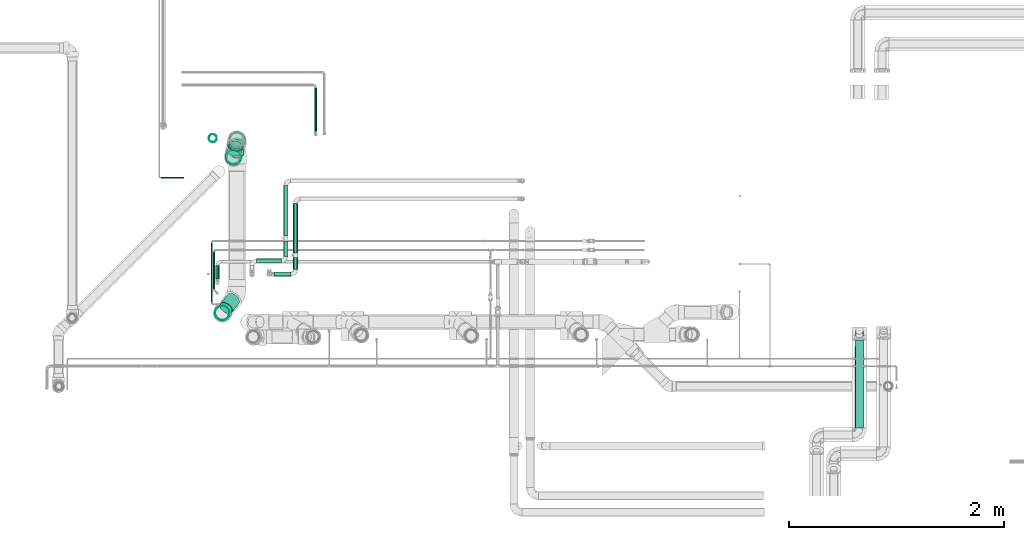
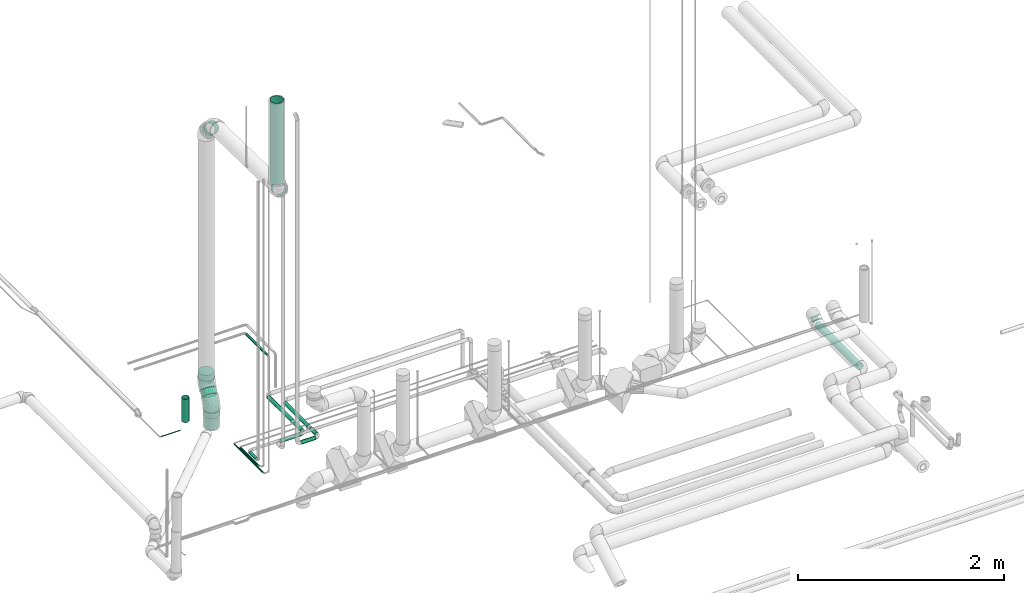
# One storey, part 61 of 156: 19 flow segments, 2 flow fittings.
"""IFC2X3 building model written with IfcOpenShell, lengths in millimetres."""

import ifcopenshell
import ifcopenshell.guid

model = None  # the IFC model being written
_history = None  # IfcOwnerHistory: only IFC2X3 demands one
_inside = {}  # id of a spatial element -> (the spatial element, [elements in it])
_under = {}  # id of a project, library or spatial element -> (it, [spatial elements below it])
_declared = {}  # id of a project -> (the project, [libraries it declares])
_typed = {}  # id of a type object -> (the type object, [elements of that type])
_made_of = {}  # id of a material, layer set ... -> (it, [elements and type objects made of it])


def new_model(schema):
    """Start an empty IFC model of exactly this schema.

    Asked for "IFC4X3", IfcOpenShell would pick the latest addendum, in which some entities
    have other attributes; the version numbers below select the first issue.
    IFC2X3 requires an IfcOwnerHistory on every rooted entity: one is made here for all.
    """
    global model, _history
    if schema == "IFC4X3":
        model = ifcopenshell.file(schema_version=(4, 3, 0, 0))
    else:
        model = ifcopenshell.file(schema=schema)
    _inside.clear()
    _under.clear()
    _declared.clear()
    _typed.clear()
    _made_of.clear()
    _history = None
    if model.schema == "IFC2X3":
        org = make("IfcOrganization", Name="unknown")
        user = make(
            "IfcPersonAndOrganization",
            ThePerson=make("IfcPerson", FamilyName="unknown"),
            TheOrganization=org,
        )
        app = make(
            "IfcApplication",
            ApplicationDeveloper=org,
            Version="unknown",
            ApplicationFullName="unknown",
            ApplicationIdentifier="unknown",
        )
        _history = make(
            "IfcOwnerHistory",
            OwningUser=user,
            OwningApplication=app,
            ChangeAction="ADDED",
            CreationDate=0,
        )
    return model


def make(cls, **values):
    """One entity of the class cls with the attributes given. An attribute that is None is left unset."""
    return model.create_entity(
        cls, **{name: value for name, value in values.items() if value is not None}
    )


def entity(cls, *values):
    """Any entity or typed value of the class cls, its attributes in the order of the schema. None: left unset."""
    e = model.create_entity(cls)
    for i, value in enumerate(values):
        if value is not None:
            e[i] = value
    return e


def rooted(cls, **values):
    """An entity with a GlobalId (a new one), such as an element, a storey or a relation."""
    return make(cls, GlobalId=ifcopenshell.guid.new(), OwnerHistory=_history, **values)


def si_unit(unit_type, name, prefix=None):
    """IfcSIUnit, for example si_unit("LENGTHUNIT", "METRE", prefix="MILLI")."""
    return make("IfcSIUnit", UnitType=unit_type, Prefix=prefix, Name=name)


def converted_unit(unit_type, name, factor, base, dimensions=None, offset=None):
    """IfcConversionBasedUnit, such as the inch: factor (a typed value) times the base unit."""
    return make(
        "IfcConversionBasedUnit"
        if offset is None
        else "IfcConversionBasedUnitWithOffset",
        ConversionOffset=offset,
        Dimensions=None
        if dimensions is None
        else entity("IfcDimensionalExponents", *dimensions),
        UnitType=unit_type,
        Name=name,
        ConversionFactor=make(
            "IfcMeasureWithUnit", ValueComponent=factor, UnitComponent=base
        ),
    )


def derived_unit(unit_type, elements):
    """IfcDerivedUnit: a product of units, each with its exponent."""
    return make(
        "IfcDerivedUnit",
        Elements=[
            make("IfcDerivedUnitElement", Unit=unit, Exponent=power)
            for unit, power in elements
        ],
        UnitType=unit_type,
    )


def assignment(units):
    """IfcUnitAssignment: the units of a project."""
    return None if units is None else make("IfcUnitAssignment", Units=units)


def point(xyz):
    """IfcCartesianPoint."""
    return None if xyz is None else make("IfcCartesianPoint", Coordinates=xyz)


def direction(xyz):
    """IfcDirection."""
    return None if xyz is None else make("IfcDirection", DirectionRatios=xyz)


def frame(location, z_axis=None, x_axis=None):
    """IfcAxis2Placement3D, a coordinate frame: its origin and axes. An axis left out is left unset."""
    return make(
        "IfcAxis2Placement3D",
        Location=point(location),
        Axis=direction(z_axis),
        RefDirection=direction(x_axis),
    )


def frame_2d(location, x_axis=None):
    """IfcAxis2Placement2D, a coordinate frame in the plane: its origin and x axis."""
    return make(
        "IfcAxis2Placement2D", Location=point(location), RefDirection=direction(x_axis)
    )


def origin_with_axes():
    """The frame at (0, 0, 0) with the z axis (0, 0, 1) and the x axis (1, 0, 0) written out."""
    return frame((0.0, 0.0, 0.0), z_axis=(0.0, 0.0, 1.0), x_axis=(1.0, 0.0, 0.0))


def origin_2d_with_axis():
    """The frame at (0, 0) in the plane with the x axis (1, 0) written out."""
    return frame_2d((0.0, 0.0), x_axis=(1.0, 0.0))


def place(relative_to, where):
    """IfcLocalPlacement: puts the frame where relative to a parent placement (None: the world)."""
    return make(
        "IfcLocalPlacement", PlacementRelTo=relative_to, RelativePlacement=where
    )


def context(
    kind, dimensions, precision=None, world=None, true_north=None, identifier=None
):
    """IfcGeometricRepresentationContext, for example the 3D "Model" context."""
    return make(
        "IfcGeometricRepresentationContext",
        ContextIdentifier=identifier,
        ContextType=kind,
        CoordinateSpaceDimension=dimensions,
        Precision=precision,
        WorldCoordinateSystem=world,
        TrueNorth=true_north,
    )


def subcontext(parent, identifier, kind, view, scale=None):
    """IfcGeometricRepresentationSubContext, for example "Body" below "Model"."""
    return make(
        "IfcGeometricRepresentationSubContext",
        ContextIdentifier=identifier,
        ContextType=kind,
        ParentContext=parent,
        TargetScale=scale,
        TargetView=view,
    )


def project(units=None, contexts=None):
    """IfcProject with its units and contexts."""
    return rooted(
        "IfcProject",
        Name="project",
        RepresentationContexts=contexts,
        UnitsInContext=assignment(units),
    )


def spatial(cls, under=None, at=None, **own):
    """A site, building, storey or space (cls), placed at a placement, below another one or the project."""
    s = rooted(cls, ObjectPlacement=at, **own)
    if under is not None:
        _under.setdefault(under.id(), (under, []))[1].append(s)
    return s


def profile(cls, at=None, kind="AREA", **sizes):
    """A parametric profile (cls). Its sizes go by their IFC names, for example OverallWidth=200.0."""
    return make(cls, ProfileType=kind, Position=at, **sizes)


def hollow_circle(**sizes):
    """IfcCircleHollowProfileDef."""
    return profile("IfcCircleHollowProfileDef", **sizes)


def extrude(swept, where, along, depth):
    """IfcExtrudedAreaSolid: the profile swept, set in the frame where, extruded along a direction by depth."""
    return make(
        "IfcExtrudedAreaSolid",
        SweptArea=swept,
        Position=where,
        ExtrudedDirection=direction(along),
        Depth=depth,
    )


def faces_of(points, faces, orient=None, outer=None):
    """IfcFace entities. A face is a list of loops; a loop is a list of indices into points, from 0.

    orient and outer hold one flag for each loop. By default every Orientation is true, the
    first loop of a face is its IfcFaceOuterBound and the others are IfcFaceBound.
    """
    made = []
    for i, loops in enumerate(faces):
        bounds = []
        for j, loop in enumerate(loops):
            is_outer = j == 0 if outer is None else outer[i][j]
            bounds.append(
                make(
                    "IfcFaceOuterBound" if is_outer else "IfcFaceBound",
                    Bound=make("IfcPolyLoop", Polygon=[points[k] for k in loop]),
                    Orientation=True if orient is None else orient[i][j],
                )
            )
        made.append(make("IfcFace", Bounds=bounds))
    return made


def open_shell(faces, orient=None, outer=None):
    """The faces of one IfcOpenShell. surface_model builds it on its shared points."""
    return ("IfcOpenShell", faces, orient, outer)


def surface_model(cls, points, shells):
    """IfcFaceBasedSurfaceModel or IfcShellBasedSurfaceModel (cls): surfaces that need not close."""
    shared = [point(p) for p in points]
    made = [make(c, CfsFaces=faces_of(shared, fs, o, b)) for c, fs, o, b in shells]
    if cls == "IfcFaceBasedSurfaceModel":
        return make(cls, FbsmFaces=made)
    return make(cls, SbsmBoundary=made)


def shape(context_of_items, identifier, shape_type, items):
    """IfcShapeRepresentation: the items that make up one representation, for example the "Body"."""
    return make(
        "IfcShapeRepresentation",
        ContextOfItems=context_of_items,
        RepresentationIdentifier=identifier,
        RepresentationType=shape_type,
        Items=items,
    )


def source(mapping_origin, context_of_items, identifier, shape_type, items):
    """IfcRepresentationMap: a shape defined once, which mapped items show again and again."""
    return make(
        "IfcRepresentationMap",
        MappingOrigin=mapping_origin,
        MappedRepresentation=shape(context_of_items, identifier, shape_type, items),
    )


def transform(
    local_origin,
    x_axis=None,
    y_axis=None,
    z_axis=None,
    scale=None,
    scale2=None,
    scale3=None,
    uniform=True,
):
    """IfcCartesianTransformationOperator3D, or its non-uniform kind. x_axis, y_axis, z_axis: its Axis1, 2, 3."""
    if uniform:
        return make(
            "IfcCartesianTransformationOperator3D",
            Axis1=direction(x_axis),
            Axis2=direction(y_axis),
            LocalOrigin=point(local_origin),
            Scale=scale,
            Axis3=direction(z_axis),
        )
    return make(
        "IfcCartesianTransformationOperator3DnonUniform",
        Axis1=direction(x_axis),
        Axis2=direction(y_axis),
        LocalOrigin=point(local_origin),
        Scale=scale,
        Axis3=direction(z_axis),
        Scale2=scale2,
        Scale3=scale3,
    )


def mapped(mapping_source, mapping_target):
    """IfcMappedItem: shows the shape of a source again, moved by a transform."""
    return make(
        "IfcMappedItem", MappingSource=mapping_source, MappingTarget=mapping_target
    )


def made_of(thing, what):
    """Note that an element or type object is made of a material, layer set ...; save() writes the relation."""
    if what is not None:
        _made_of.setdefault(what.id(), (what, []))[1].append(thing)
    return thing


def type_object(cls, material=None, **own):
    """A type object (cls), such as IfcWallType, which elements share."""
    return made_of(rooted(cls, **own), material)


def element(
    cls,
    number,
    at=None,
    inside=None,
    cuts=None,
    type_object=None,
    material=None,
    context=None,
    identifier="Body",
    shape_type=None,
    held_by="IfcProductDefinitionShape",
    body=None,
    shapes=None,
    **own,
):
    """One element of the class cls, such as IfcWall. Its Tag is "e" and its number.

    at: its placement. inside: the storey or other place that contains it. cuts: it is an
    opening in that element (IfcRelVoidsElement). A single representation is given by context,
    identifier, shape_type and body (its items); several are given by shapes. held_by: the class
    of the entity that holds the representations. save() writes the other relations.
    """
    e = rooted(cls, Tag="e%d" % number, ObjectPlacement=at, **own)
    if body is not None:
        shapes = [shape(context, identifier, shape_type, body)]
    if shapes is not None:
        e.Representation = make(held_by, Representations=shapes)
    if inside is not None:
        _inside.setdefault(inside.id(), (inside, []))[1].append(e)
    if cuts is not None:
        rooted(
            "IfcRelVoidsElement", RelatingBuildingElement=cuts, RelatedOpeningElement=e
        )
    if type_object is not None:
        _typed.setdefault(type_object.id(), (type_object, []))[1].append(e)
    return made_of(e, material)


def aggregate(whole, parts):
    """IfcRelAggregates: a whole, such as a stair, and the parts it consists of."""
    return rooted("IfcRelAggregates", RelatingObject=whole, RelatedObjects=parts)


def save(model, path):
    """Write the relations noted so far, then the file.

    IfcRelAggregates (storeys below a building ...), IfcRelContainedInSpatialStructure (elements
    in a storey), IfcRelDefinesByType, IfcRelAssociatesMaterial and IfcRelDeclares: one each for
    every whole, place, type object, material and project.
    """
    for whole, parts in _under.values():
        aggregate(whole, parts)
    for where, things in _inside.values():
        rooted(
            "IfcRelContainedInSpatialStructure",
            RelatedElements=things,
            RelatingStructure=where,
        )
    for kind, things in _typed.values():
        rooted("IfcRelDefinesByType", RelatedObjects=things, RelatingType=kind)
    for what, things in _made_of.values():
        rooted("IfcRelAssociatesMaterial", RelatedObjects=things, RelatingMaterial=what)
    for by, libraries in _declared.values():
        rooted("IfcRelDeclares", RelatingContext=by, RelatedDefinitions=libraries)
    model.write(path)


model = new_model("IFC2X3")

# Units and contexts
model_context = context("Model", 3, precision=0.01, world=frame((0.0, 4.29681676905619e-09, 0.0)), true_north=direction((4.01073788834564e-13, 1.0)))
plan_context = context("Plan", 3, precision=0.01, world=frame((0.0, 4.29681676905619e-09, 0.0)), true_north=direction((4.01073788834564e-13, 1.0)))
body_context = subcontext(model_context, "Body", "Model", "MODEL_VIEW")
ifc_project = project(units=[converted_unit("PLANEANGLEUNIT", "DEGREE", entity("IfcPositiveLengthMeasure", 0.0174532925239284), si_unit("PLANEANGLEUNIT", "RADIAN"), dimensions=[0, 0, 0, 0, 0, 0, 0]), si_unit("AREAUNIT", "SQUARE_METRE"), si_unit("LENGTHUNIT", "METRE", prefix="MILLI"), si_unit("MASSUNIT", "GRAM", prefix="KILO"), si_unit("POWERUNIT", "WATT"), si_unit("PRESSUREUNIT", "PASCAL", prefix="KILO"), si_unit("FORCEUNIT", "NEWTON", prefix="KILO"), si_unit("ELECTRICVOLTAGEUNIT", "VOLT"), si_unit("ELECTRICCURRENTUNIT", "AMPERE"), si_unit("THERMODYNAMICTEMPERATUREUNIT", "DEGREE_CELSIUS"), si_unit("TIMEUNIT", "SECOND"), si_unit("VOLUMEUNIT", "CUBIC_METRE"), derived_unit("LINEARVELOCITYUNIT", [(si_unit("LENGTHUNIT", "METRE"), 1), (si_unit("TIMEUNIT", "SECOND"), -1)]), derived_unit("VOLUMETRICFLOWRATEUNIT", [(si_unit("VOLUMEUNIT", "CUBIC_METRE"), 1), (si_unit("TIMEUNIT", "SECOND"), -1)]), derived_unit("THERMALTRANSMITTANCEUNIT", [(si_unit("POWERUNIT", "WATT"), 1), (si_unit("THERMODYNAMICTEMPERATUREUNIT", "KELVIN"), -1), (si_unit("AREAUNIT", "SQUARE_METRE"), -1)]), derived_unit("SOUNDPRESSUREUNIT", [(si_unit("PRESSUREUNIT", "PASCAL"), 1)])], contexts=[model_context, plan_context])

# Site, building, storey
site_placement = place(None, frame((0.0, -4.29681676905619e-09, 0.0), z_axis=(0.0, 0.0, 1.0), x_axis=(1.0, 0.0, 0.0)))
site = spatial("IfcSite", under=ifc_project, at=site_placement, CompositionType="ELEMENT")
building_placement = place(site_placement, frame((0.0, 4.29681676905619e-09, 0.0), z_axis=(0.0, 0.0, 1.0), x_axis=(1.0, 0.0, 0.0)))
building = spatial("IfcBuilding", under=site, at=building_placement, Name="mc-building", CompositionType="ELEMENT")
storey_placement = place(building_placement, frame((0.0, 0.0, 205200.0), z_axis=(0.0, 0.0, 1.0), x_axis=(1.0, 0.0, 0.0)))
storey = spatial("IfcBuildingStorey", under=building, at=storey_placement, Name="Nivå D + 1,2 m", CompositionType="ELEMENT", Elevation=205200.0)

# Flow fittings
pipe_fitting_type = type_object("IfcPipeFittingType", Name="magi_sewer_bend_001", PredefinedType="BEND")
shared_shape_1 = source(origin_with_axes(), body_context, "Body", "SurfaceModel", [
    surface_model("IfcShellBasedSurfaceModel", [(-137.13779, -39.625, -68.63251), (-137.13779, 20.51141, -76.54962), (-137.13779, -20.51141, -76.54962), (-137.13779, -56.03821, -56.03821), (-137.13779, -68.63251, -39.625), (-137.13779, -76.54962, -20.51141), (-137.13779, -79.25, 0.0), (-137.13779, 68.63251, -39.625), (-137.13779, 39.625, -68.63251), (-137.13779, 0.0, -79.25), (-137.13779, 56.03821, -56.03821), (-137.13779, 76.54962, -20.51141), (-137.13779, 76.54962, 20.51141), (-137.13779, -76.54962, 20.51141), (-137.13779, -68.63251, 39.625), (-137.13779, -56.03821, 56.03821), (-137.13779, -39.625, 68.63251), (-137.13779, -20.51141, 76.54962), (-137.13779, 0.0, 79.25), (-137.13779, 20.51141, 76.54962), (-137.13779, 56.03821, 56.03821), (-137.13779, 68.63251, 39.625), (-137.13779, 79.25, 0.0), (-137.13779, 39.625, 68.63251), (-69.63779, 0.0, 79.25), (-69.63779, -20.51141, 76.54962), (-69.63779, -39.625, 68.63251), (-69.63779, 20.51141, 76.54962), (-69.63779, -56.03821, 56.03821), (-69.63779, -68.63251, 39.625), (-69.63779, -76.54962, 20.51141), (-69.63779, 56.03821, 56.03821), (-69.63779, 39.625, 68.63251), (-69.63779, 76.54962, 20.51141), (-69.63779, 68.63251, 39.625), (-69.63779, 76.54962, -20.51141), (-69.63779, 79.25, 0.0), (-69.63779, -79.25, 0.0), (-69.63779, -76.54962, -20.51141), (-69.63779, -68.63251, -39.625), (-69.63779, -56.03821, -56.03821), (-69.63779, -39.625, -68.63251), (-69.63779, -20.51141, -76.54962), (-69.63779, 0.0, -79.25), (-69.63779, 68.63251, -39.625), (-69.63779, 39.625, -68.63251), (-69.63779, 56.03821, -56.03821), (-69.63779, 20.51141, -76.54962), (34.92984, 149.32214, 39.625), (28.84304, 154.38491, -20.51141), (28.84304, 154.38491, 20.51141), (44.61253, 141.26846, 56.03821), (57.23127, 130.77269, 68.63251), (71.92609, 118.55011, 76.54962), (87.69558, 105.43366, 79.25), (103.46508, 92.31722, -76.54962), (71.92609, 118.55011, -76.54962), (44.61253, 141.26846, -56.03821), (34.92984, 149.32214, -39.625), (26.76695, 156.11171, 0.0), (57.23127, 130.77269, -68.63251), (103.46508, 92.31722, 76.54962), (118.1599, 80.09465, 68.63251), (130.77864, 69.59888, -56.03821), (140.46133, 61.54519, 39.625), (130.77864, 69.59888, 56.03821), (146.54812, 56.48244, 20.51141), (148.62421, 54.75562, 0.0), (146.54812, 56.48244, -20.51141), (118.1599, 80.09465, -68.63251), (87.69558, 105.43366, -79.25), (140.46133, 61.54519, -39.625), (74.99564, 28.19959, 68.63251), (105.45995, 2.86057, 0.0), (103.38386, 4.58738, 20.51141), (87.61437, 17.70383, 56.03821), (97.29706, 9.65014, 39.625), (103.38386, 4.58738, -20.51141), (60.30081, 40.42217, -76.54962), (60.30081, 40.42217, 76.54962), (87.61437, 17.70383, -56.03821), (97.29706, 9.65014, -39.625), (74.99564, 28.19959, -68.63251), (28.76183, 66.65506, -76.54962), (44.53132, 53.53862, -79.25), (14.067, 78.87764, 68.63251), (44.53132, 53.53862, 79.25), (28.76183, 66.65506, 76.54962), (-8.23442, 97.42709, 39.625), (1.44827, 89.37341, 56.03821), (-16.39731, 104.21666, 0.0), (-14.32122, 102.48985, 20.51141), (1.44827, 89.37341, -56.03821), (14.067, 78.87764, -68.63251), (-8.23442, 97.42709, -39.625), (-14.32122, 102.48985, -20.51141), (-69.63779, 0.0, -74.25), (-69.63779, -52.50268, -52.50268), (-69.63779, 19.21731, -71.71999), (-69.63779, 37.125, -64.30238), (-69.63779, 52.50268, -52.50268), (-69.63779, 71.71999, -19.21731), (-69.63779, 64.30238, -37.125), (-69.63779, -64.30238, -37.125), (-69.63779, -37.125, -64.30238), (-69.63779, -19.21731, -71.71999), (-69.63779, -71.71999, -19.21731), (-69.63779, -74.25, 0.0), (-69.63779, -71.71999, 19.21731), (-69.63779, 71.71999, 19.21731), (-69.63779, 19.21731, 71.71999), (-69.63779, 64.30238, 37.125), (-69.63779, 52.50268, 52.50268), (-69.63779, 37.125, 64.30238), (-69.63779, 0.0, 74.25), (-69.63779, -64.30238, 37.125), (-69.63779, -52.50268, 52.50268), (-69.63779, -37.125, 64.30238), (-69.63779, -19.21731, 71.71999), (-69.63779, 74.25, 0.0), (4.16644, 87.11253, -52.50268), (44.53132, 53.53862, -74.25), (29.75675, 65.82752, -71.71999), (15.98904, 77.27896, -64.30238), (-4.90536, 94.6581, -37.125), (-10.60813, 99.40145, -19.21731), (93.96799, 12.41913, -37.125), (59.30589, 41.24971, -71.71999), (84.8962, 19.9647, -52.50268), (73.0736, 29.79827, -64.30238), (99.67077, 7.67579, -19.21731), (99.67077, 7.67579, 19.21731), (101.61587, 6.05793, 0.0), (-10.60813, 99.40145, 19.21731), (4.16644, 87.11253, 52.50268), (-4.90536, 94.6581, 37.125), (15.98904, 77.27896, 64.30238), (29.75675, 65.82752, 71.71999), (73.0736, 29.79827, 64.30238), (44.53132, 53.53862, 74.25), (84.8962, 19.9647, 52.50268), (93.96799, 12.41913, 37.125), (59.30589, 41.24971, 71.71999), (-12.55324, 101.01931, 0.0), (-19.34968, -54.80761, 42.42674), (-32.45645, -66.34906, 26.01714), (-40.62907, -71.30785, 12.36148), (-21.19091, -68.91771, 0.0), (-32.17325, 11.93643, 73.92957), (30.32582, 22.92971, 73.2737), (-32.81312, -43.66439, 57.34899), (-24.81067, -25.58492, 67.34713), (14.51727, -30.95753, 55.15442), (-30.68301, 65.43038, 47.87989), (-0.35541, 0.75791, 72.7843), (-37.02119, -8.65209, 73.2737), (-38.90374, 47.71072, 60.4397), (6.9187, 53.71074, 69.30012), (18.28322, -51.34744, 25.22851), (24.93649, -53.17615, 0.0), (46.60059, -39.91524, 14.16777), (-16.96676, 36.18099, 70.11088), (-45.71795, 29.02724, 69.30012), (20.44128, -41.40202, 41.33078), (6.23745, -13.30113, 67.82714), (35.53578, 2.71403, 67.34713), (-30.59311, 77.6122, 30.77785), (-37.42595, 79.80945, 15.41738), (54.55289, -2.69485, 57.34899), (-48.24019, 77.40004, 0.0), (-10.1193, -64.7257, 14.21435), (45.51219, -35.02185, 29.45901), (71.76513, -17.47525, 26.01714), (11.39693, 32.36829, 73.92957), (54.5105, -20.17153, 42.42674), (-9.63875, 62.10604, 60.30621), (80.80368, -14.36301, 12.36148), (66.53597, -27.77895, 0.0), (-28.65817, 86.58285, 0.0), (64.52356, -11.64715, -43.16051), (45.9662, -10.09343, -56.85499), (23.73384, 17.19545, -73.16993), (-21.39216, 71.17482, -47.14974), (-47.01338, 60.5579, -46.7379), (-35.19605, 75.05426, -31.19366), (-35.80138, 30.67362, -69.58204), (-2.45537, 5.23599, -73.60916), (7.44871, -16.22604, -66.32836), (-28.39722, -7.25096, -73.16993), (-37.41911, 79.79486, -15.49306), (42.46823, 8.71476, -67.6123), (-0.68842, 47.13954, -69.58204), (20.54587, -51.85409, -21.01023), (-20.54756, -64.24289, -25.2267), (15.47138, -44.38665, -40.35058), (-41.42529, 10.44371, -73.86099), (-8.73738, 18.63214, -74.07726), (62.53049, -25.28416, -25.2267), (-32.33724, -57.05907, -43.16224), (-21.76988, -41.82073, -56.86107), (14.84593, -31.8249, -54.30658), (38.36901, -27.36603, -46.50282), (-33.85723, -27.0774, -67.6123), (-49.64131, 45.7958, -59.90599), (-24.45929, 52.15852, -61.16675), (-3.46437, 67.45007, -59.90599), (18.46096, 38.52685, -73.86099)], [open_shell([[[0, 1, 2]], [[3, 1, 0]], [[4, 5, 6]], [[4, 6, 3]], [[6, 1, 3]], [[1, 7, 8]], [[1, 9, 2]], [[8, 7, 10]], [[7, 1, 11]], [[6, 11, 1]], [[6, 12, 11]], [[13, 14, 15]], [[13, 15, 16]], [[16, 17, 18]], [[13, 16, 12]], [[19, 16, 18]], [[12, 20, 21]], [[22, 11, 12]], [[20, 19, 23]], [[19, 20, 12]], [[16, 19, 12]], [[12, 6, 13]], [[24, 25, 26]], [[27, 24, 26]], [[28, 29, 30]], [[28, 30, 26]], [[27, 26, 30]], [[27, 31, 32]], [[31, 27, 33]], [[31, 33, 34]], [[27, 30, 33]], [[33, 35, 36]], [[33, 30, 35]], [[37, 38, 39]], [[37, 39, 40]], [[41, 42, 37]], [[41, 37, 40]], [[37, 42, 43]], [[44, 45, 46]], [[47, 44, 35]], [[44, 47, 45]], [[47, 35, 43]], [[35, 37, 43]], [[37, 35, 30]], [[11, 36, 35]], [[8, 45, 47]], [[45, 10, 46]], [[1, 47, 43]], [[35, 7, 11]], [[11, 22, 36]], [[44, 10, 7]], [[44, 46, 10]], [[10, 45, 8]], [[47, 1, 8]], [[44, 7, 35]], [[43, 9, 1]], [[2, 42, 41]], [[40, 0, 41]], [[4, 39, 38]], [[40, 39, 3]], [[5, 38, 37]], [[42, 2, 9]], [[41, 0, 2]], [[40, 3, 0]], [[39, 4, 3]], [[5, 4, 38]], [[37, 6, 5]], [[42, 9, 43]], [[30, 13, 37]], [[29, 14, 30]], [[29, 28, 15]], [[28, 26, 16]], [[30, 14, 13]], [[13, 6, 37]], [[25, 17, 16]], [[17, 25, 24]], [[15, 28, 16]], [[15, 14, 29]], [[26, 25, 16]], [[24, 18, 17]], [[19, 27, 32]], [[31, 23, 32]], [[21, 34, 33]], [[31, 34, 20]], [[12, 33, 36]], [[27, 19, 18]], [[32, 23, 19]], [[31, 20, 23]], [[34, 21, 20]], [[12, 21, 33]], [[36, 22, 12]], [[27, 18, 24]], [[48, 49, 50]], [[51, 49, 48]], [[52, 53, 54]], [[49, 51, 52]], [[52, 55, 56]], [[49, 57, 58]], [[49, 59, 50]], [[57, 56, 60]], [[56, 57, 49]], [[52, 56, 49]], [[52, 54, 61]], [[62, 63, 61]], [[64, 62, 65]], [[64, 66, 67]], [[68, 62, 64]], [[68, 64, 67]], [[55, 63, 69]], [[70, 56, 55]], [[63, 68, 71]], [[63, 55, 61]], [[68, 63, 62]], [[55, 52, 61]], [[72, 73, 74]], [[75, 74, 76]], [[73, 72, 77]], [[72, 74, 75]], [[78, 72, 79]], [[77, 80, 81]], [[77, 72, 80]], [[80, 78, 82]], [[72, 78, 80]], [[78, 83, 84]], [[78, 79, 85]], [[86, 87, 85]], [[78, 85, 83]], [[83, 85, 88]], [[88, 85, 89]], [[90, 88, 91]], [[83, 92, 93]], [[92, 83, 94]], [[83, 95, 94]], [[83, 88, 95]], [[88, 90, 95]], [[85, 79, 86]], [[56, 84, 83]], [[58, 94, 95]], [[94, 57, 92]], [[49, 95, 90]], [[83, 60, 56]], [[56, 70, 84]], [[93, 57, 60]], [[93, 92, 57]], [[57, 94, 58]], [[95, 49, 58]], [[93, 60, 83]], [[90, 59, 49]], [[50, 91, 88]], [[89, 48, 88]], [[52, 85, 87]], [[89, 85, 51]], [[53, 87, 86]], [[91, 50, 59]], [[88, 48, 50]], [[89, 51, 48]], [[85, 52, 51]], [[53, 52, 87]], [[86, 54, 53]], [[91, 59, 90]], [[79, 61, 86]], [[72, 62, 79]], [[72, 75, 65]], [[75, 76, 64]], [[79, 62, 61]], [[61, 54, 86]], [[74, 66, 64]], [[66, 74, 73]], [[65, 75, 64]], [[65, 62, 72]], [[76, 74, 64]], [[73, 67, 66]], [[68, 77, 81]], [[80, 71, 81]], [[69, 82, 78]], [[80, 82, 63]], [[55, 78, 84]], [[77, 68, 67]], [[81, 71, 68]], [[80, 63, 71]], [[82, 69, 63]], [[55, 69, 78]], [[84, 70, 55]], [[77, 67, 73]], [[96, 97, 98]], [[99, 98, 100]], [[101, 102, 100]], [[100, 98, 97]], [[101, 100, 103]], [[104, 97, 105]], [[97, 96, 105]], [[97, 103, 100]], [[101, 103, 106]], [[107, 108, 106]], [[109, 101, 106]], [[110, 109, 106]], [[111, 109, 112]], [[109, 110, 113]], [[112, 109, 113]], [[106, 114, 110]], [[115, 116, 108]], [[117, 108, 116]], [[118, 114, 117]], [[106, 108, 117]], [[106, 117, 114]], [[119, 101, 109]], [[120, 121, 122]], [[120, 122, 123]], [[120, 124, 125]], [[120, 125, 121]], [[121, 125, 126]], [[127, 128, 129]], [[128, 127, 126]], [[130, 131, 132]], [[126, 127, 121]], [[130, 126, 131]], [[126, 125, 133]], [[131, 126, 133]], [[134, 133, 135]], [[134, 136, 137]], [[133, 134, 138]], [[137, 139, 134]], [[131, 140, 141]], [[140, 131, 138]], [[138, 139, 142]], [[138, 131, 133]], [[134, 139, 138]], [[133, 125, 143]], [[144, 115, 145]], [[146, 107, 147]], [[110, 114, 148]], [[142, 139, 149]], [[117, 150, 151]], [[152, 151, 150]], [[134, 135, 153]], [[154, 155, 151]], [[155, 114, 118]], [[112, 113, 156]], [[118, 117, 151]], [[137, 136, 157]], [[144, 145, 158]], [[156, 153, 112]], [[159, 160, 158]], [[153, 111, 112]], [[161, 162, 148]], [[163, 144, 158]], [[164, 152, 165]], [[166, 167, 109]], [[140, 138, 168]], [[169, 119, 109]], [[111, 153, 166]], [[151, 164, 154]], [[110, 162, 113]], [[117, 116, 150]], [[170, 145, 146]], [[115, 108, 145]], [[165, 142, 149]], [[158, 171, 163]], [[133, 167, 166]], [[165, 138, 142]], [[141, 172, 131]], [[137, 157, 173]], [[170, 159, 158]], [[174, 172, 141]], [[161, 157, 175]], [[165, 168, 138]], [[108, 146, 145]], [[132, 131, 176]], [[160, 159, 177]], [[162, 156, 113]], [[173, 148, 154]], [[169, 167, 178]], [[116, 115, 144]], [[143, 178, 133]], [[155, 148, 114]], [[166, 153, 135]], [[111, 166, 109]], [[134, 175, 136]], [[149, 173, 154]], [[133, 166, 135]], [[167, 133, 178]], [[153, 156, 175]], [[137, 173, 139]], [[148, 173, 161]], [[109, 167, 169]], [[174, 141, 140]], [[160, 171, 158]], [[168, 152, 174]], [[176, 131, 172]], [[116, 144, 150]], [[152, 150, 144]], [[152, 168, 165]], [[174, 140, 168]], [[151, 155, 118]], [[148, 155, 154]], [[173, 149, 139]], [[165, 149, 154]], [[153, 175, 134]], [[161, 175, 156]], [[148, 162, 110]], [[156, 162, 161]], [[175, 157, 136]], [[173, 157, 161]], [[152, 164, 151]], [[165, 154, 164]], [[107, 146, 108]], [[170, 146, 147]], [[159, 170, 147]], [[158, 145, 170]], [[176, 160, 177]], [[171, 160, 172]], [[172, 174, 171]], [[163, 174, 152]], [[174, 163, 171]], [[144, 163, 152]], [[160, 176, 172]], [[132, 176, 177]], [[128, 179, 180]], [[121, 127, 181]], [[182, 183, 184]], [[99, 185, 98]], [[119, 169, 101]], [[186, 187, 188]], [[189, 101, 169]], [[127, 190, 181]], [[100, 102, 183]], [[123, 122, 191]], [[192, 193, 194]], [[195, 96, 98]], [[103, 193, 106]], [[181, 186, 196]], [[147, 107, 106]], [[126, 197, 179]], [[106, 193, 147]], [[193, 103, 198]], [[97, 104, 199]], [[200, 201, 194]], [[97, 198, 103]], [[105, 202, 104]], [[105, 96, 188]], [[128, 126, 179]], [[125, 189, 178]], [[101, 189, 184]], [[189, 169, 178]], [[194, 198, 199]], [[178, 143, 125]], [[124, 120, 182]], [[102, 101, 184]], [[203, 185, 99]], [[198, 97, 199]], [[184, 124, 182]], [[191, 204, 205]], [[188, 202, 105]], [[206, 122, 121]], [[120, 123, 205]], [[96, 195, 188]], [[203, 99, 100]], [[159, 197, 177]], [[206, 181, 196]], [[181, 190, 187]], [[198, 194, 193]], [[200, 187, 180]], [[192, 197, 159]], [[193, 192, 147]], [[180, 129, 128]], [[130, 177, 197]], [[127, 129, 190]], [[132, 177, 130]], [[206, 191, 122]], [[196, 195, 185]], [[130, 197, 126]], [[125, 124, 184]], [[199, 200, 194]], [[204, 191, 185]], [[189, 125, 184]], [[196, 185, 191]], [[202, 187, 199]], [[201, 197, 194]], [[205, 182, 120]], [[204, 203, 183]], [[129, 180, 190]], [[187, 190, 180]], [[187, 202, 188]], [[199, 104, 202]], [[185, 195, 98]], [[188, 195, 196]], [[181, 206, 121]], [[191, 206, 196]], [[184, 183, 102]], [[204, 183, 182]], [[197, 192, 194]], [[147, 192, 159]], [[183, 203, 100]], [[185, 203, 204]], [[191, 205, 123]], [[182, 205, 204]], [[187, 200, 199]], [[201, 180, 179]], [[180, 201, 200]], [[197, 201, 179]], [[187, 186, 181]], [[188, 196, 186]]])]),
])
for number, where, z_axis, x_axis, name in (
    (1, (324277.16577, 464258.45864, 4246.97752000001), (-0.980682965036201, 0.195603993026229, 0.0), (0.0, 0.0, 1.0), "magi_sewer_bend_001"),
    (2, (324308.57539, 464415.93402, 4380.53938999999), (0.980682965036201, -0.195603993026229, -1.38777878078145e-17), (0.150383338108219, 0.753964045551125, 0.639470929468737), "magi_sewer_bend_001"),
):
    element("IfcFlowFitting", number, at=place(storey_placement, frame(where, z_axis=z_axis, x_axis=x_axis)), inside=storey, type_object=pipe_fitting_type, Name=name, context=body_context, shape_type="MappedRepresentation", body=[
        mapped(shared_shape_1, transform((0.0, 0.0, 0.0), scale=1.0)),
    ])

# Flow segments
pipe_segment_type_1 = type_object("IfcPipeSegmentType", Name="Stålrør normaltykke", PredefinedType="RIGIDSEGMENT")
shared_shape_2 = source(origin_with_axes(), body_context, "Body", "SweptSolid", [
    extrude(hollow_circle(Radius=21.2, WallThickness=2.0, at=origin_2d_with_axis()), frame((0.0, 0.0, 0.0), z_axis=(1.0, 0.0, 0.0), x_axis=(0.0, 1.0, 0.0)), (0.0, 0.0, 1.0), 112.2),
])
flow_segment_1_placement = place(storey_placement, frame((324853.30442, 463323.62349, 4303.5), z_axis=(0.0, 0.0, 1.0), x_axis=(0.0, -1.0, 0.0)))
element("IfcFlowSegment", 3, at=flow_segment_1_placement, inside=storey, type_object=pipe_segment_type_1, Name="Stålrør normaltykke", context=body_context, shape_type="MappedRepresentation", body=[
    mapped(shared_shape_2, transform((0.0, 0.0, 0.0), scale=1.0)),
])
shared_shape_3 = source(origin_with_axes(), body_context, "Body", "SweptSolid", [
    extrude(hollow_circle(Radius=21.2, WallThickness=2.0, at=origin_2d_with_axis()), frame((0.0, 0.0, 0.0), z_axis=(1.0, 0.0, 0.0), x_axis=(0.0, 1.0, 0.0)), (0.0, 0.0, 1.0), 159.6),
])
flow_segment_2_placement = place(storey_placement, frame((324810.90442, 463169.03228, 4303.5), z_axis=(0.0, 0.0, 1.0), x_axis=(-1.0, 0.0, 0.0)))
element("IfcFlowSegment", 4, at=flow_segment_2_placement, inside=storey, type_object=pipe_segment_type_1, Name="Stålrør normaltykke", context=body_context, shape_type="MappedRepresentation", body=[
    mapped(shared_shape_3, transform((0.0, 0.0, 0.0), scale=1.0)),
])
shared_shape_4 = source(origin_with_axes(), body_context, "Body", "SweptSolid", [
    extrude(hollow_circle(Radius=21.2, WallThickness=2.0, at=origin_2d_with_axis()), frame((0.0, 0.0, 0.0), z_axis=(1.0, 0.0, 0.0), x_axis=(0.0, 1.0, 0.0)), (0.0, 0.0, 1.0), 144.5),
])
flow_segment_3_placement = place(storey_placement, frame((324763.30442, 463479.3125, 4303.5), z_axis=(0.0, 0.0, 1.0), x_axis=(0.0, -1.0, 0.0)))
element("IfcFlowSegment", 5, at=flow_segment_3_placement, inside=storey, type_object=pipe_segment_type_1, Name="Stålrør normaltykke", context=body_context, shape_type="MappedRepresentation", body=[
    mapped(shared_shape_4, transform((0.0, 0.0, 0.0), scale=1.0)),
])
shared_shape_5 = source(origin_with_axes(), body_context, "Body", "SweptSolid", [
    extrude(hollow_circle(Radius=21.2, WallThickness=2.0, at=origin_2d_with_axis()), frame((0.0, 0.0, 0.0), z_axis=(1.0, 0.0, 0.0), x_axis=(0.0, 1.0, 0.0)), (0.0, 0.0, 1.0), 229.6),
])
flow_segment_4_placement = place(storey_placement, frame((324720.90442, 463292.4125, 4303.5), z_axis=(0.0, 0.0, 1.0), x_axis=(-1.0, 0.0, 0.0)))
element("IfcFlowSegment", 6, at=flow_segment_4_placement, inside=storey, type_object=pipe_segment_type_1, Name="Stålrør normaltykke", context=body_context, shape_type="MappedRepresentation", body=[
    mapped(shared_shape_5, transform((0.0, 0.0, 0.0), scale=1.0)),
])
shared_shape_6 = source(origin_with_axes(), body_context, "Body", "SweptSolid", [
    extrude(hollow_circle(Radius=21.2, WallThickness=2.0, at=origin_2d_with_axis()), frame((0.0, 0.0, 0.0), z_axis=(1.0, 0.0, 0.0), x_axis=(0.0, 1.0, 0.0)), (0.0, 0.0, 1.0), 461.0),
])
flow_segment_5_placement = place(storey_placement, frame((324853.30442, 463827.38191, 4303.5), z_axis=(0.0, 0.0, 1.0), x_axis=(0.0, -1.0, 0.0)))
element("IfcFlowSegment", 7, at=flow_segment_5_placement, inside=storey, type_object=pipe_segment_type_1, Name="Stålrør normaltykke", context=body_context, shape_type="MappedRepresentation", body=[
    mapped(shared_shape_6, transform((0.0, 0.0, 0.0), scale=1.0)),
])
shared_shape_7 = source(origin_with_axes(), body_context, "Body", "SweptSolid", [
    extrude(hollow_circle(Radius=21.2, WallThickness=2.0, at=origin_2d_with_axis()), frame((0.0, 0.0, 0.0), z_axis=(1.0, 0.0, 0.0), x_axis=(0.0, 1.0, 0.0)), (0.0, 0.0, 1.0), 471.6),
])
flow_segment_6_placement = place(storey_placement, frame((324763.30442, 463993.7423, 4303.5), z_axis=(0.0, 0.0, 1.0), x_axis=(0.0, -1.0, 0.0)))
element("IfcFlowSegment", 8, at=flow_segment_6_placement, inside=storey, type_object=pipe_segment_type_1, Name="Stålrør normaltykke", context=body_context, shape_type="MappedRepresentation", body=[
    mapped(shared_shape_7, transform((0.0, 0.0, 0.0), scale=1.0)),
])
pipe_segment_type_2 = type_object("IfcPipeSegmentType", Name="Kobberrør", PredefinedType="RIGIDSEGMENT")
shared_shape_8 = source(origin_with_axes(), body_context, "Body", "SweptSolid", [
    extrude(hollow_circle(Radius=17.5, WallThickness=2.0, at=origin_2d_with_axis()), frame((0.0, 0.0, 0.0), z_axis=(1.0, 0.0, 0.0), x_axis=(0.0, 1.0, 0.0)), (0.0, 0.0, 1.0), 124.5),
])
flow_segment_7_placement = place(storey_placement, frame((324128.525, 463125.0, 4318.0), z_axis=(0.0, 0.0, 1.0), x_axis=(0.0, 1.0, 0.0)))
element("IfcFlowSegment", 9, at=flow_segment_7_placement, inside=storey, type_object=pipe_segment_type_2, Name="Kobberrør", context=body_context, shape_type="MappedRepresentation", body=[
    mapped(shared_shape_8, transform((0.0, 0.0, 0.0), scale=1.0)),
])
shared_shape_9 = source(origin_with_axes(), body_context, "Body", "SweptSolid", [
    extrude(hollow_circle(Radius=9.0, WallThickness=2.0, at=origin_2d_with_axis()), frame((0.0, 0.0, 0.0), z_axis=(1.0, 0.0, 0.0), x_axis=(0.0, 1.0, 0.0)), (0.0, 0.0, 1.0), 346.2),
])
flow_segment_8_placement = place(storey_placement, frame((324096.70519, 463029.27565, 4309.0), z_axis=(0.0, 0.0, 1.0), x_axis=(0.0, 1.0, 0.0)))
element("IfcFlowSegment", 10, at=flow_segment_8_placement, inside=storey, type_object=pipe_segment_type_2, Name="Kobberrør", context=body_context, shape_type="MappedRepresentation", body=[
    mapped(shared_shape_9, transform((0.0, 0.0, 0.0), scale=1.0)),
])
shared_shape_10 = source(origin_with_axes(), body_context, "Body", "SweptSolid", [
    extrude(hollow_circle(Radius=7.5, WallThickness=2.0, at=origin_2d_with_axis()), frame((0.0, 0.0, 0.0), z_axis=(1.0, 0.0, 0.0), x_axis=(0.0, 1.0, 0.0)), (0.0, 0.0, 1.0), 557.7),
])
flow_segment_9_placement = place(storey_placement, frame((324075.349, 462905.0, 4308.0), z_axis=(0.0, 0.0, 1.0), x_axis=(0.0, 1.0, 0.0)))
element("IfcFlowSegment", 11, at=flow_segment_9_placement, inside=storey, type_object=pipe_segment_type_2, Name="Kobberrør", context=body_context, shape_type="MappedRepresentation", body=[
    mapped(shared_shape_10, transform((0.0, 0.0, 0.0), scale=1.0)),
])
pipe_segment_type_3 = type_object("IfcPipeSegmentType", Name="MA", PredefinedType="RIGIDSEGMENT")
shared_shape_11 = source(origin_with_axes(), body_context, "Body", "SweptSolid", [
    extrude(hollow_circle(Radius=67.5, WallThickness=2.0, at=origin_2d_with_axis()), frame((0.0, 0.0, 0.0), z_axis=(1.0, 0.0, 0.0), x_axis=(0.0, 1.0, 0.0)), (0.0, 0.0, 1.0), 212.7),
])
flow_segment_10_placement = place(storey_placement, frame((324277.18387, 464258.44053, 3964.60780999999), z_axis=(-0.195603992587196, -0.980682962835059, 6.69999974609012e-05), x_axis=(-8.49475217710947e-05, 8.52631019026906e-05, 0.999999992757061)))
element("IfcFlowSegment", 12, at=flow_segment_10_placement, inside=storey, type_object=pipe_segment_type_3, Name="MA", context=body_context, shape_type="MappedRepresentation", body=[
    mapped(shared_shape_11, transform((0.0, 0.0, 0.0), scale=1.0)),
])
shared_shape_12 = source(origin_with_axes(), body_context, "Body", "SweptSolid", [
    extrude(hollow_circle(Radius=67.5, WallThickness=2.0, at=origin_2d_with_axis()), frame((0.0, 0.0, 0.0), z_axis=(1.0, 0.0, 0.0), x_axis=(0.0, 1.0, 0.0)), (0.0, 0.0, 1.0), 69.6),
])
flow_segment_11_placement = place(storey_placement, frame((324287.63816, 464310.96305, 4291.50883999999), z_axis=(-0.125082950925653, -0.627117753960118, 0.768815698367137), x_axis=(0.150384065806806, 0.753964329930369, 0.639470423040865)))
element("IfcFlowSegment", 13, at=flow_segment_11_placement, inside=storey, type_object=pipe_segment_type_3, Name="MA", context=body_context, shape_type="MappedRepresentation", body=[
    mapped(shared_shape_12, transform((0.0, 0.0, 0.0), scale=1.0)),
])
shared_shape_13 = source(origin_with_axes(), body_context, "Body", "SweptSolid", [
    extrude(hollow_circle(Radius=67.5, WallThickness=2.0, at=origin_2d_with_axis()), frame((0.0, 0.0, 0.0), z_axis=(1.0, 0.0, 0.0), x_axis=(0.0, 1.0, 0.0)), (0.0, 0.0, 1.0), 108.5),
])
flow_segment_12_placement = place(storey_placement, frame((324308.57539, 464372.43938, 7400.41643000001), z_axis=(0.0, 0.707106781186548, 0.707106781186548), x_axis=(0.0, -0.707106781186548, 0.707106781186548)))
element("IfcFlowSegment", 14, at=flow_segment_12_placement, inside=storey, type_object=pipe_segment_type_3, Name="MA", context=body_context, shape_type="MappedRepresentation", body=[
    mapped(shared_shape_13, transform((0.0, 0.0, 0.0), scale=1.0)),
])
shared_shape_14 = source(origin_with_axes(), body_context, "Body", "SweptSolid", [
    extrude(hollow_circle(Radius=67.5, WallThickness=2.0, at=origin_2d_with_axis()), frame((0.0, 0.0, 0.0), z_axis=(1.0, 0.0, 0.0), x_axis=(0.0, 1.0, 0.0)), (0.0, 0.0, 1.0), 137.7),
])
flow_segment_13_placement = place(storey_placement, frame((324274.58821, 462938.23029, 7584.90148), z_axis=(0.0, 0.707106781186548, 0.707106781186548), x_axis=(-0.483684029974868, -0.618890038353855, 0.618890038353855)))
element("IfcFlowSegment", 15, at=flow_segment_13_placement, inside=storey, type_object=pipe_segment_type_3, Name="MA", context=body_context, shape_type="MappedRepresentation", body=[
    mapped(shared_shape_14, transform((0.0, 0.0, 0.0), scale=1.0)),
])
shared_shape_15 = source(origin_with_axes(), body_context, "Body", "SweptSolid", [
    extrude(hollow_circle(Radius=67.5, WallThickness=2.0, at=origin_2d_with_axis()), frame((0.0, 0.0, 0.0), z_axis=(1.0, 0.0, 0.0), x_axis=(0.0, 1.0, 0.0)), (0.0, 0.0, 1.0), 967.9),
])
flow_segment_14_placement = place(storey_placement, frame((324173.14379, 462808.42883, 7786.75443999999), z_axis=(1.0, 0.0, 0.0), x_axis=(0.0, 0.0, 1.0)))
element("IfcFlowSegment", 16, at=flow_segment_14_placement, inside=storey, type_object=pipe_segment_type_3, Name="MA", context=body_context, shape_type="MappedRepresentation", body=[
    mapped(shared_shape_15, transform((0.0, 0.0, 0.0), scale=1.0)),
])
pipe_segment_type_4 = type_object("IfcPipeSegmentType", Name="SSt", PredefinedType="RIGIDSEGMENT")
shared_shape_16 = source(origin_with_axes(), body_context, "Body", "SweptSolid", [
    extrude(hollow_circle(Radius=38.0, WallThickness=2.0, at=origin_2d_with_axis()), frame((0.0, 0.0, 0.0), z_axis=(1.0, 0.0, 0.0), x_axis=(0.0, 1.0, 0.0)), (0.0, 0.0, 1.0), 277.9),
])
flow_segment_15_placement = place(storey_placement, frame((324085.30246, 464433.31412, 4272.22776000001), z_axis=(-0.53600983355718, -0.844211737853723, -3.3881317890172e-21), x_axis=(4.21507816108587e-05, -2.67625199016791e-05, -0.99999999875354)))
element("IfcFlowSegment", 17, at=flow_segment_15_placement, inside=storey, type_object=pipe_segment_type_4, Name="SSt", context=body_context, shape_type="MappedRepresentation", body=[
    mapped(shared_shape_16, transform((0.0, 0.0, 0.0), scale=1.0)),
])
shared_shape_17 = source(origin_with_axes(), body_context, "Body", "SweptSolid", [
    extrude(hollow_circle(Radius=13.3, WallThickness=2.0, at=origin_2d_with_axis()), frame((0.0, 0.0, 0.0), z_axis=(1.0, 0.0, 0.0), x_axis=(0.0, 1.0, 0.0)), (0.0, 0.0, 1.0), 406.4),
])
flow_segment_16_placement = place(storey_placement, frame((325040.9735, 464900.21094, 4400.0), z_axis=(0.0, 0.0, 1.0), x_axis=(0.0, -1.0, 0.0)))
element("IfcFlowSegment", 18, at=flow_segment_16_placement, inside=storey, type_object=pipe_segment_type_1, Name="Stålrør normaltykke", context=body_context, shape_type="MappedRepresentation", body=[
    mapped(shared_shape_17, transform((0.0, 0.0, 0.0), scale=1.0)),
])
shared_shape_18 = source(origin_with_axes(), body_context, "Body", "SweptSolid", [
    extrude(hollow_circle(Radius=38.0, WallThickness=2.0, at=origin_2d_with_axis()), frame((0.0, 0.0, 0.0), z_axis=(1.0, 0.0, 0.0), x_axis=(0.0, 1.0, 0.0)), (0.0, 0.0, 1.0), 817.3),
])
flow_segment_17_placement = place(storey_placement, frame((330095.05549, 461740.27263, 4163.33854999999), z_axis=(0.0, 0.0, 1.0), x_axis=(0.000256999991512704, 0.999999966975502, 0.0)))
element("IfcFlowSegment", 19, at=flow_segment_17_placement, inside=storey, type_object=pipe_segment_type_1, Name="Stålrør normaltykke", context=body_context, shape_type="MappedRepresentation", body=[
    mapped(shared_shape_18, transform((0.0, 0.0, 0.0), scale=1.0)),
])
shared_shape_19 = source(origin_with_axes(), body_context, "Body", "SweptSolid", [
    extrude(hollow_circle(Radius=38.0, WallThickness=2.0, at=origin_2d_with_axis()), frame((0.0, 0.0, 0.0), z_axis=(1.0, 0.0, 0.0), x_axis=(0.0, 1.0, 0.0)), (0.0, 0.0, 1.0), 41.1),
])
flow_segment_18_placement = place(storey_placement, frame((330095.28539, 462632.59349, 4211.46194000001), z_axis=(0.000181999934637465, 0.707106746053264, -0.707106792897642), x_axis=(-0.000181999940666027, -0.707106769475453, -0.707106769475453)))
element("IfcFlowSegment", 20, at=flow_segment_18_placement, inside=storey, type_object=pipe_segment_type_1, Name="Stålrør normaltykke", context=body_context, shape_type="MappedRepresentation", body=[
    mapped(shared_shape_19, transform((0.0, 0.0, 0.0), scale=1.0)),
])
shared_shape_20 = source(origin_with_axes(), body_context, "Body", "SweptSolid", [
    extrude(hollow_circle(Radius=6.0, WallThickness=2.0, at=origin_2d_with_axis()), frame((0.0, 0.0, 0.0), z_axis=(1.0, 0.0, 0.0), x_axis=(0.0, 1.0, 0.0)), (0.0, 0.0, 1.0), 218.0),
])
flow_segment_19_placement = place(storey_placement, frame((323598.90619, 464066.4497, 4196.25), z_axis=(0.0, 0.0, 1.0), x_axis=(1.0, 0.0, 0.0)))
element("IfcFlowSegment", 21, at=flow_segment_19_placement, inside=storey, type_object=pipe_segment_type_2, Name="Kobberrør", context=body_context, shape_type="MappedRepresentation", body=[
    mapped(shared_shape_20, transform((0.0, 0.0, 0.0), scale=1.0)),
])

save(model, "model.ifc")
